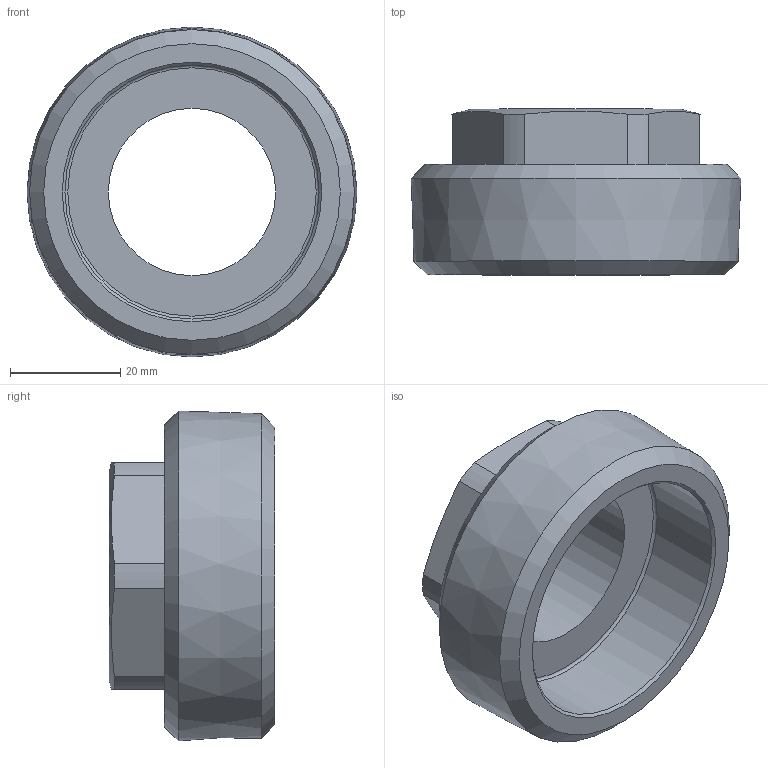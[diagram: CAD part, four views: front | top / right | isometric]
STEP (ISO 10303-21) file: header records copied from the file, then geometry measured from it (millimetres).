
FILE_DESCRIPTION(/* description */ ('STEP AP203'),/* implementation_level */ '2;1');
FILE_NAME(/* name */ 'E43108',/* time_stamp */ '2024-03-05T13:09:43+01:00',/* author */ ('License CC BY-ND 4.0'),/* organization */ ('CADENAS'),/* preprocessor_version */ 'ST-DEVELOPER v19.3',/* originating_system */ 'PARTsolutions',/* authorisation */ ' ');
FILE_SCHEMA (('CONFIG_CONTROL_DESIGN'));
Length unit declared in the file: millimetre
Products named in the file (1): E43108
Bounding box: 59.73 x 30 x 59.73 mm (x, y, z)
Volume: 32268.7 mm3; surface area: 11927.2 mm2
Topology: 1 solids, 1 shells, 25 faces, 58 edges, 37 vertices
Faces by surface type: plane 10, cylinder 8, cone 6, torus 1
Full cylindrical faces by diameter (mm): 30.291 x1, 46 x1
Entity records: 708 total; most frequent: CARTESIAN_POINT 134, DIRECTION 118, ORIENTED_EDGE 96, AXIS2_PLACEMENT_3D 50, EDGE_CURVE 48, EDGE_LOOP 38, FACE_BOUND 38, VERTEX_POINT 36
